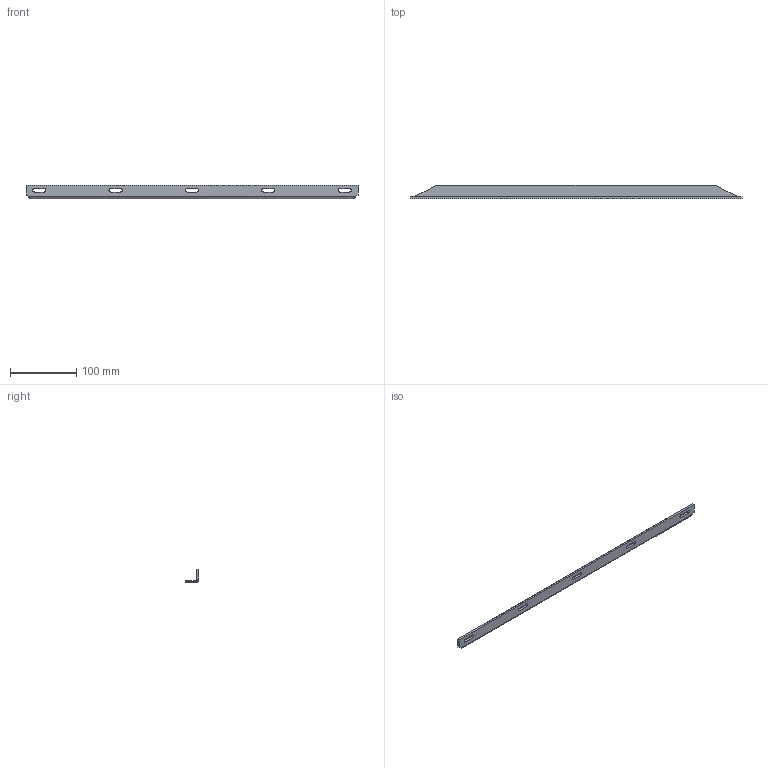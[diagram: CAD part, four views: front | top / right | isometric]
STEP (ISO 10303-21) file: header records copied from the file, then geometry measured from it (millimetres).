
FILE_DESCRIPTION (( 'STEP AP214' ), '1' );
FILE_NAME ('E446-500.STEP', '2024-12-11T22:58:07', ( '' ), ( '' ), 'SwSTEP 2.0', 'SolidWorks 2024', '' );
FILE_SCHEMA (( 'AUTOMOTIVE_DESIGN' ));
Length unit declared in the file: millimetre
Products named in the file (1): E446-500
Bounding box: 500 x 20 x 20 mm (x, y, z)
Volume: 50344.5 mm3; surface area: 37408.1 mm2
Topology: 1 solids, 1 shells, 88 faces, 238 edges, 156 vertices
Faces by surface type: plane 64, cylinder 18, bspline 6
Entity records: 2899 total; most frequent: CARTESIAN_POINT 665, ORIENTED_EDGE 476, DIRECTION 420, EDGE_CURVE 238, VECTOR 190, LINE 190, VERTEX_POINT 156, AXIS2_PLACEMENT_3D 115
